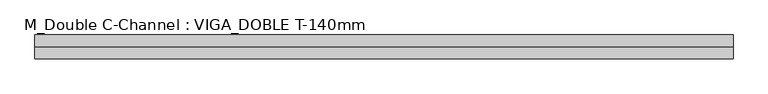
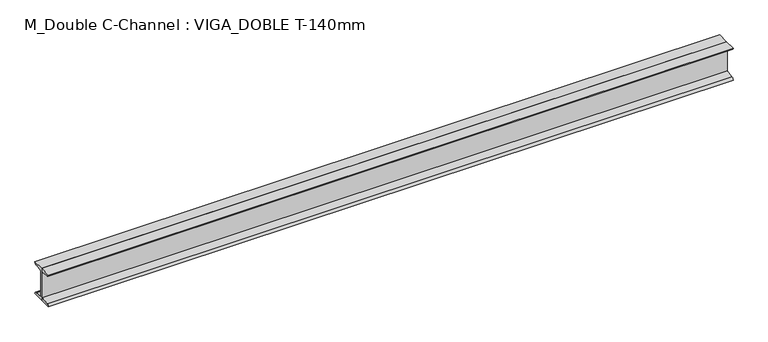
"""IFC4 building model written with IfcOpenShell, lengths in millimetres: beam geometry, M_Double C-Channel : VIGA_DOBLE T-140mm."""

from ifc_helpers import new_model, si_unit, point, frame, frame_2d, origin, place, context, project, spatial, polyline, circle_curve, trimmed, segment, composite_curve, outline, extrude, source, transform, mapped, element, save


def m_double_c_channel_viga_doble_t_140mm_1bed0e81(model_context):
    return source(origin(), model_context, "Body", "SweptSolid", [
        extrude(outline(composite_curve([segment(polyline([(0.0, 70.0), (48.8, 70.0)]), True, "CONTINUOUS"), segment(trimmed(circle_curve(frame_2d((40.1, 70.0)), 8.7), [point((48.8, 70.0))], [point((40.1, 61.3))], False, "CARTESIAN"), True, "CONTINUOUS"), segment(polyline([(40.1, 61.3), (5.1, 55.7565446), (5.1, -55.7565446), (40.1, -61.3)]), True, "CONTINUOUS"), segment(trimmed(circle_curve(frame_2d((40.1, -70.0)), 8.7), [point((40.1, -61.3))], [point((48.8, -70.0))], False, "CARTESIAN"), True, "CONTINUOUS"), segment(polyline([(48.8, -70.0), (0.0, -70.0), (0.0, 70.0)]), True, "CONTINUOUS")], self_intersect=False)), frame((-1426.4058406, 0.0, 0.0), z_axis=(1.0, 0.0, 0.0), x_axis=(0.0, 1.0, 0.0)), (0.0, 0.0, 1.0), 2852.8116811),
        extrude(outline(composite_curve([segment(polyline([(0.0, 70.0), (0.0, -70.0), (-48.8, -70.0)]), True, "CONTINUOUS"), segment(trimmed(circle_curve(frame_2d((-40.1, -70.0)), 8.7), [point((-48.8, -70.0))], [point((-40.1, -61.3))], False, "CARTESIAN"), True, "CONTINUOUS"), segment(polyline([(-40.1, -61.3), (-5.1, -55.7565446), (-5.1, 55.7565446), (-40.1, 61.3)]), True, "CONTINUOUS"), segment(trimmed(circle_curve(frame_2d((-40.1, 70.0)), 8.7), [point((-40.1, 61.3))], [point((-48.8, 70.0))], False, "CARTESIAN"), True, "CONTINUOUS"), segment(polyline([(-48.8, 70.0), (0.0, 70.0)]), True, "CONTINUOUS")], self_intersect=False)), frame((-1426.4058406, 0.0, 0.0), z_axis=(1.0, 0.0, 0.0), x_axis=(0.0, 1.0, 0.0)), (0.0, 0.0, 1.0), 2852.8116811),
    ])


if __name__ == "__main__":
    model = new_model("IFC4")
    model_context = context("Model", 3, world=origin())
    ifc_project = project(units=[si_unit("LENGTHUNIT", "METRE", prefix="MILLI")], contexts=[model_context])
    site = spatial("IfcSite", under=ifc_project)
    building = spatial("IfcBuilding", under=site)
    placement = place(None, origin())
    m_double_c_channel_viga_doble_t_140mm_shape = m_double_c_channel_viga_doble_t_140mm_1bed0e81(model_context)
    element("IfcBeam", 1, ObjectType="M_Double C-Channel : VIGA_DOBLE T-140mm", at=placement, inside=building, context=model_context, shape_type="MappedRepresentation", body=[
        mapped(m_double_c_channel_viga_doble_t_140mm_shape, transform((0.0, 0.0, 0.0), x_axis=(1.0, 0.0, 0.0), y_axis=(0.0, 1.0, 0.0), z_axis=(0.0, 0.0, 1.0))),
    ])
    save(model, "model.ifc")
